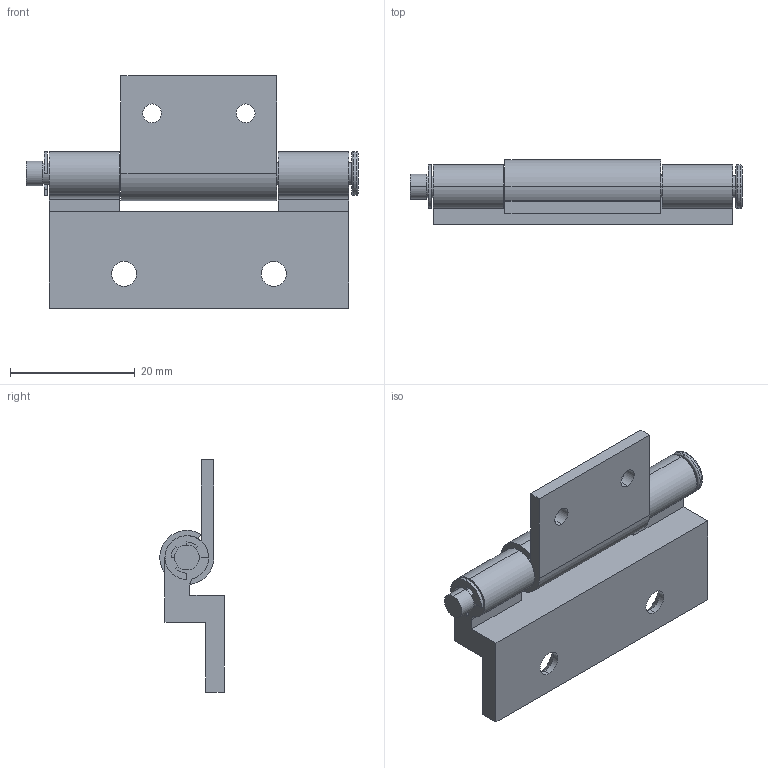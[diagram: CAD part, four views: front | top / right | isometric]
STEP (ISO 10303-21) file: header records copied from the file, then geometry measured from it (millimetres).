
FILE_DESCRIPTION (( 'STEP AP214' ), '1' );
FILE_NAME ('HL078.STEP', '2023-06-28T05:47:50', ( 'Windows 蚚誧' ), ( '' ), 'SwSTEP 2.0', 'SolidWorks 2019', '' );
FILE_SCHEMA (( 'AUTOMOTIVE_DESIGN' ));
Length unit declared in the file: millimetre
Products named in the file (1): HL078
Bounding box: 53.22 x 10.34 x 37.25 mm (x, y, z)
Volume: 6400.1 mm3; surface area: 5500.9 mm2
Topology: 2 solids, 2 shells, 75 faces, 197 edges, 128 vertices
Faces by surface type: cylinder 34, plane 33, torus 4, cone 4
Entity records: 2408 total; most frequent: DIRECTION 435, CARTESIAN_POINT 401, ORIENTED_EDGE 394, EDGE_CURVE 197, AXIS2_PLACEMENT_3D 162, VERTEX_POINT 128, LINE 111, VECTOR 111
